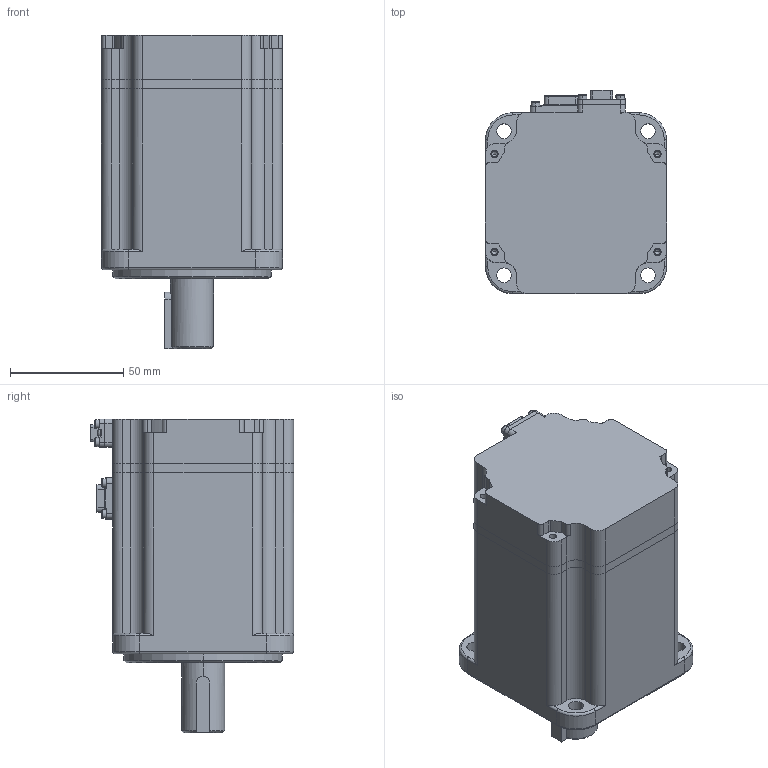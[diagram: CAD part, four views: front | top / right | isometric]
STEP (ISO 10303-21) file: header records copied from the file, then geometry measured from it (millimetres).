
FILE_DESCRIPTION (( 'STEP AP214' ), '1' );
FILE_NAME ('×°ÅäÌå1.STEP', '2022-12-29T09:11:49', ( '' ), ( '' ), 'SwSTEP 2.0', 'SolidWorks 2022', '' );
FILE_SCHEMA (( 'AUTOMOTIVE_DESIGN' ));
Length unit declared in the file: millimetre
Products named in the file (8): 键C型键; 装配体1; 编码器罩-锐鹰绝对值分体磁编; 动力底座sc-mc6p-ae2g; 10109020758 机壳-80L78.1(侧边开孔)-毛塑-V1.0; sc-mc7p-a82g-00-信号底座; hexagon socket head cap screws gb_GB_FASTENER_SCREWS_HSHCS M2X6-N; 后端盖（80（毛坯同：10109030172)-毛塑）-V1.0
Assembly tree (14 placements, depth 2):
  装配体1
    10109020758 机壳-80L78.1(侧边开孔)-毛塑-V1.0
    后端盖（80（毛坯同：10109030172)-毛塑）-V1.0
    编码器罩-锐鹰绝对值分体磁编
    动力底座sc-mc6p-ae2g
    sc-mc7p-a82g-00-信号底座
    键C型键
    hexagon socket head cap screws gb_GB_FASTENER_SCREWS_HSHCS M2X6-N  x8
Bounding box: 80 x 89.8 x 138.7 mm (x, y, z)
Volume: 586683.5 mm3; surface area: 84892.1 mm2
Topology: 16 solids, 16 shells, 1970 faces, 5069 edges, 3158 vertices
Faces by surface type: plane 1015, cylinder 631, torus 170, cone 108, bspline 46
Entity records: 63768 total; most frequent: CARTESIAN_POINT 17708, ORIENTED_EDGE 9210, DIRECTION 9041, EDGE_CURVE 4605, AXIS2_PLACEMENT_3D 3159, VERTEX_POINT 2927, LINE 2723, VECTOR 2723
